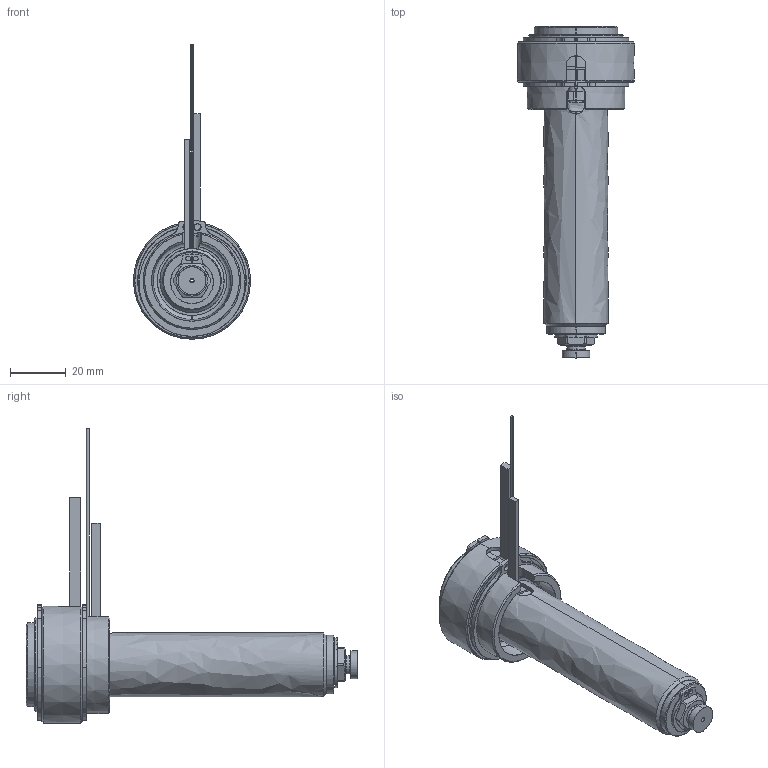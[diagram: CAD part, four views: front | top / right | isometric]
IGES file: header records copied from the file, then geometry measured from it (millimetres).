
Start section: SolidWorks IGES file using analytic representation for surfaces
Global section: file name: C:\Users\luca.EMPAD\Desktop\TEM\UGBE3502-M-A-3 [Ød-1.0 P-0 ØC-6.0].IGS; native system: SolidWorks 2012; preprocessor: SolidWorks 2012; author: luca; date: 120330.135419; units: millimetre
Bounding box: 42 x 119 x 105.6 mm (x, y, z)
Surface area: 27646.3 mm2 (no closed solid volume)
Topology: 0 solids, 0 shells, 182 faces, 3218 edges, 3218 vertices
Faces by surface type: revolution 116, bspline 66
